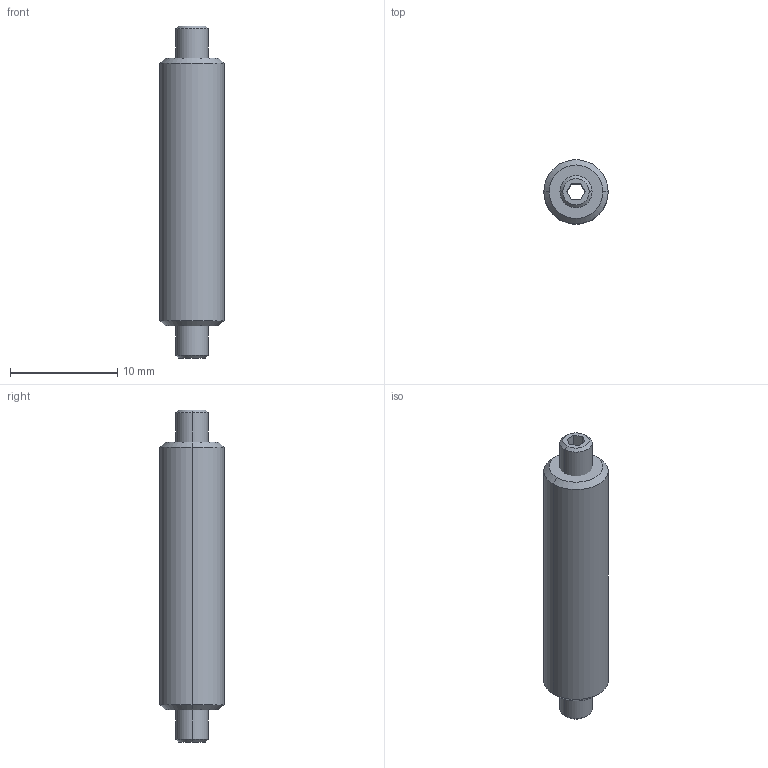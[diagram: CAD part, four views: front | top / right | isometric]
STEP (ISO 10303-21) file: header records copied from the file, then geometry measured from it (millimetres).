
FILE_DESCRIPTION (( 'STEP AP203' ), '1' );
FILE_NAME ('CSSP-25.STEP', '2023-11-24T04:56:05', ( '' ), ( '' ), 'SwSTEP 2.0', 'SolidWorks 2021', '' );
FILE_SCHEMA (( 'CONFIG_CONTROL_DESIGN' ));
Length unit declared in the file: millimetre
Products named in the file (1): CSSP-25
Bounding box: 6 x 6 x 31 mm (x, y, z)
Surface area: 667.2 mm2 (no closed solid volume)
Topology: 0 solids, 3 shells, 30 faces, 74 edges, 48 vertices
Faces by surface type: plane 16, cone 8, cylinder 6
Entity records: 953 total; most frequent: DIRECTION 160, CARTESIAN_POINT 153, ORIENTED_EDGE 128, EDGE_CURVE 74, AXIS2_PLACEMENT_3D 55, LINE 50, VECTOR 50, VERTEX_POINT 48
